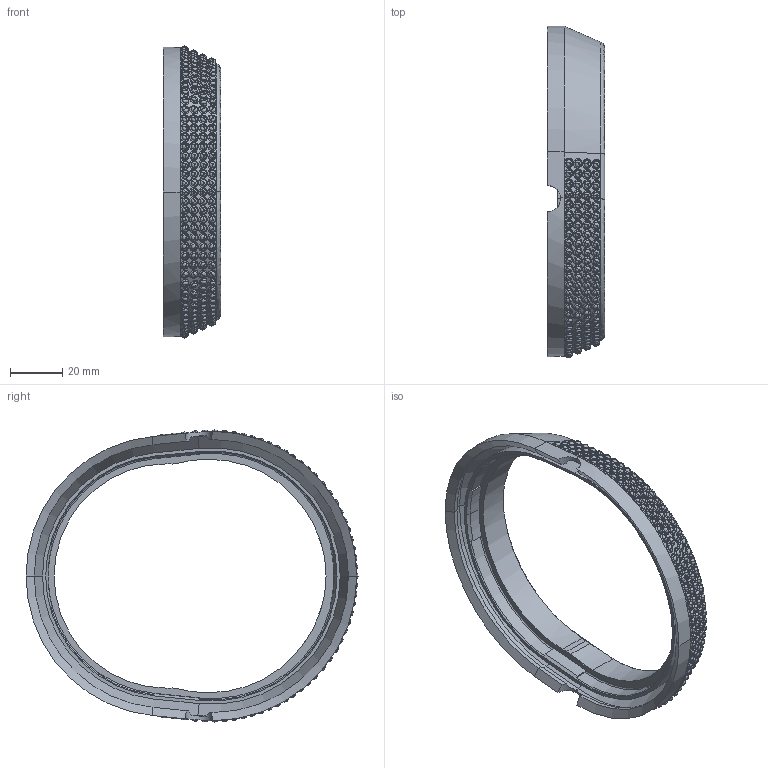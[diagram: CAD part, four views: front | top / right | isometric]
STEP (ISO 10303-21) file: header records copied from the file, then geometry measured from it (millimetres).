
FILE_DESCRIPTION (( 'STEP AP214' ), '1' );
FILE_NAME ('P-00110 - Nozzle Gasket - v2.2.3_Right Angle Nozzle.STEP', '2026-06-12T21:47:48', ( '' ), ( '' ), 'SwSTEP 2.0', 'SolidWorks 2023', '' );
FILE_SCHEMA (( 'AUTOMOTIVE_DESIGN' ));
Length unit declared in the file: inch
Products named in the file (1): P-00110 - Nozzle Gasket - v2.2.3_Right Angle Nozzle
Bounding box: 22 x 126.99 x 111.72 mm (x, y, z)
Volume: 25214.2 mm3; surface area: 31950.3 mm2
Topology: 1 solids, 1 shells, 2128 faces, 5083 edges, 3164 vertices
Faces by surface type: bspline 1764, cone 255, plane 79, cylinder 26, torus 4
Entity records: 261466 total; most frequent: CARTESIAN_POINT 224778, ORIENTED_EDGE 10166, EDGE_CURVE 5083, DIRECTION 3752, B_SPLINE_CURVE_WITH_KNOTS 3369, VERTEX_POINT 3164, EDGE_LOOP 2337, FACE_OUTER_BOUND 2128
